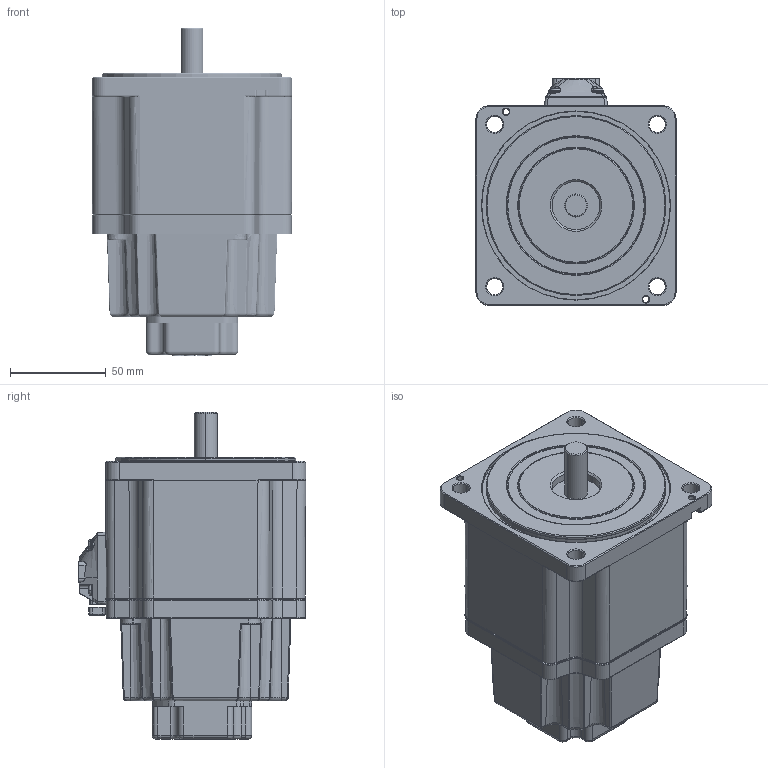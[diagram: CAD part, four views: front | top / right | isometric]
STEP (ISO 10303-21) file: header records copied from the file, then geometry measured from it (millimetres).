
FILE_DESCRIPTION (( 'STEP AP214' ), '1' );
FILE_NAME ('X Series 200(400)w_brake_encoder_H.STEP', '2023-08-16T06:33:38', ( '' ), ( '' ), 'SwSTEP 2.0', 'SolidWorks 2022', '' );
FILE_SCHEMA (( 'AUTOMOTIVE_DESIGN' ));
Length unit declared in the file: millimetre
Products named in the file (15): M-CASE-RE01ST01.stp.STEP.STEP.STEP; M4xL12 PH.stp.STEP.STEP.STEP; BRACKET-ST01.stp.STEP.STEP.STEP; GASKET-ST01 (2).stp.STEP.STEP.STEP; BRAKECOVER(90).stp.STEP; ENCODER COVER ASS''Y; X Series 200(400)w_brake_H.STEP; X Series 200(400)w_brake_encoder_H; K10FH200NC.STEP.STEP; ENCODER COVER; M-COVER-ST01.stp.STEP.STEP.STEP; ACDC_200W.stp.STEP.STEP.STEP; M3xL12 PH.stp.STEP.STEP.STEP; K10FH200NC.STEP.STEP.STEP; LEAD BUSH.stp
Assembly tree (21 placements, depth 6):
  X Series 200(400)w_brake_encoder_H
    X Series 200(400)w_brake_H.STEP
      K10FH200NC.STEP.STEP
        K10FH200NC.STEP.STEP.STEP
          ACDC_200W.stp.STEP.STEP.STEP
            M-CASE-RE01ST01.stp.STEP.STEP.STEP
            M-COVER-ST01.stp.STEP.STEP.STEP
            BRACKET-ST01.stp.STEP.STEP.STEP
            GASKET-ST01 (2).stp.STEP.STEP.STEP
            M4xL12 PH.stp.STEP.STEP.STEP  x4
            M3xL12 PH.stp.STEP.STEP.STEP  x4
      BRAKECOVER(90).stp.STEP  x2
    ENCODER COVER ASS''Y
      LEAD BUSH.stp
      ENCODER COVER
Bounding box: 104.5 x 118.87 x 171 mm (x, y, z)
Volume: 901282.6 mm3; surface area: 179569.9 mm2
Topology: 16 solids, 21 shells, 2989 faces, 7752 edges, 4799 vertices
Faces by surface type: cylinder 1306, plane 782, bspline 418, torus 263, cone 192, sphere 28
Entity records: 81836 total; most frequent: CARTESIAN_POINT 33649, ORIENTED_EDGE 10222, DIRECTION 9249, EDGE_CURVE 5111, AXIS2_PLACEMENT_3D 3448, VERTEX_POINT 3178, VECTOR 2353, LINE 2353
